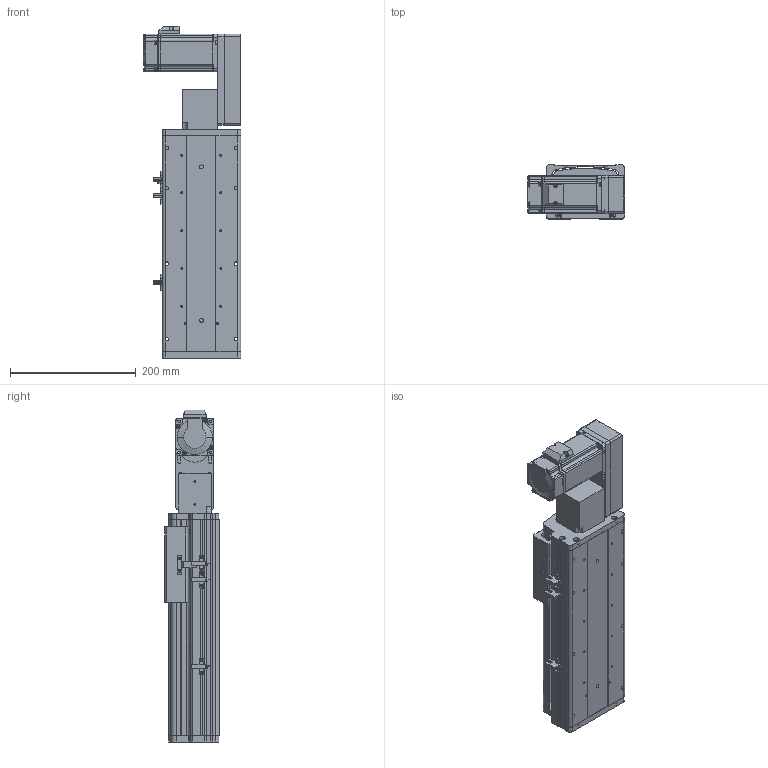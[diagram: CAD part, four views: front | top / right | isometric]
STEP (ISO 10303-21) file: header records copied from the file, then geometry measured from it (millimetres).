
FILE_DESCRIPTION (( 'STEP AP214' ), '1' );
FILE_NAME ('KSD125B-S150-MLB-CM.STEP', '2017-10-21T01:30:06', ( '微软用户' ), ( '微软中国' ), 'SwSTEP 2.0', 'SolidWorks 2014', '' );
FILE_SCHEMA (( 'AUTOMOTIVE_DESIGN' ));
Length unit declared in the file: millimetre
Products named in the file (17): U倰嫖萇EEㄜSX672; KSD125模组同步带-防撞垫1; 前端板-125宽模组同步带; 125模组同步带-尾端板1; KSD125模组同步带-滑动座1; KSD125B-S150-MLB-CM; 悵誘欶奻狟殏; HTPA30S3M150_A_H6_a佪裝蚚; HTPA30S3M150_A_H6_a萇儂蚚; 100宽马达安装板连板上下折丝杆同步带; 100宽马达安装板同步带左; KSD125模组150行程同步带-防尘盖; 125模组150行程同步带-底板; MHMD042G1CA_2_03; KSD125模组同步带-防撞垫2; 覜茼え68遵圉猾敕; U倰嫖萇假蚾璃
Assembly tree (20 placements, depth 2):
  KSD125B-S150-MLB-CM
    KSD125模组同步带-滑动座1
    125模组同步带-尾端板1
    前端板-125宽模组同步带
    KSD125模组同步带-防撞垫1
    U倰嫖萇EEㄜSX672  x3
    U倰嫖萇假蚾璃  x3
    覜茼え68遵圉猾敕
    KSD125模组同步带-防撞垫2
    MHMD042G1CA_2_03
    125模组150行程同步带-底板
    KSD125模组150行程同步带-防尘盖
    100宽马达安装板同步带左
    100宽马达安装板连板上下折丝杆同步带
    HTPA30S3M150_A_H6_a萇儂蚚
    HTPA30S3M150_A_H6_a佪裝蚚
    悵誘欶奻狟殏
Bounding box: 155 x 86 x 528 mm (x, y, z)
Volume: 1655188.9 mm3; surface area: 606443.7 mm2
Topology: 19 solids, 22 shells, 2195 faces, 6349 edges, 4194 vertices
Faces by surface type: cylinder 1352, plane 716, cone 105, bspline 22
Entity records: 77459 total; most frequent: CARTESIAN_POINT 15363, DIRECTION 12058, ORIENTED_EDGE 11218, EDGE_CURVE 5687, AXIS2_PLACEMENT_3D 4641, VERTEX_POINT 3786, LINE 2776, VECTOR 2776
